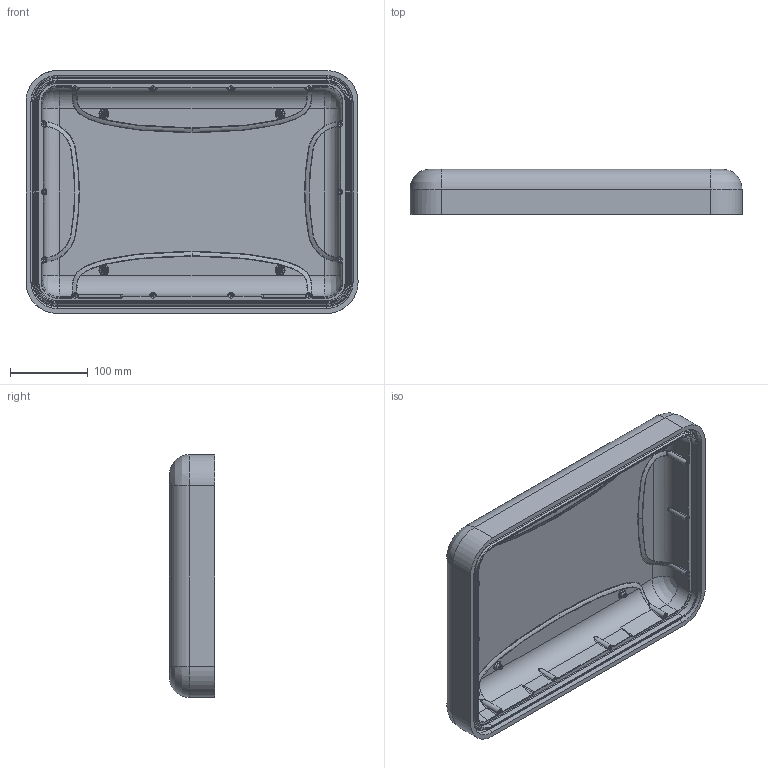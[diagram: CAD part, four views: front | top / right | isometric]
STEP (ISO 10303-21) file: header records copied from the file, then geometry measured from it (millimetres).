
FILE_DESCRIPTION (( 'STEP AP203' ), '1' );
FILE_NAME ('920_R1_Top_INNER_SURFACE_STEP.STEP', '2020-03-18T18:58:25', ( 'Sylvain' ), ( '' ), 'SwSTEP 2.0', 'SolidWorks 2018', '' );
FILE_SCHEMA (( 'CONFIG_CONTROL_DESIGN' ));
Length unit declared in the file: inch
Products named in the file (1): 920_R1_Top_INNER_SURFACE_STEP
Bounding box: 425.91 x 57.88 x 311.61 mm (x, y, z)
Volume: 2094324 mm3; surface area: 405778.5 mm2
Topology: 1 solids, 1 shells, 903 faces, 2176 edges, 1334 vertices
Faces by surface type: plane 318, bspline 299, torus 126, cylinder 102, cone 56, sphere 2
Entity records: 78820 total; most frequent: CARTESIAN_POINT 59688, ORIENTED_EDGE 4340, DIRECTION 3390, EDGE_CURVE 2170, VERTEX_POINT 1334, AXIS2_PLACEMENT_3D 1211, EDGE_LOOP 968, LINE 968
